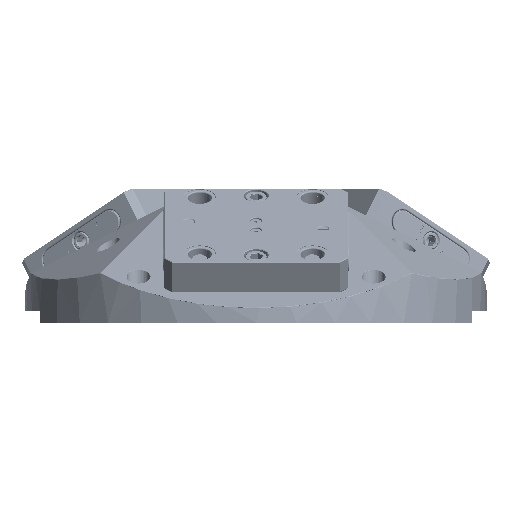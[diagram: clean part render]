
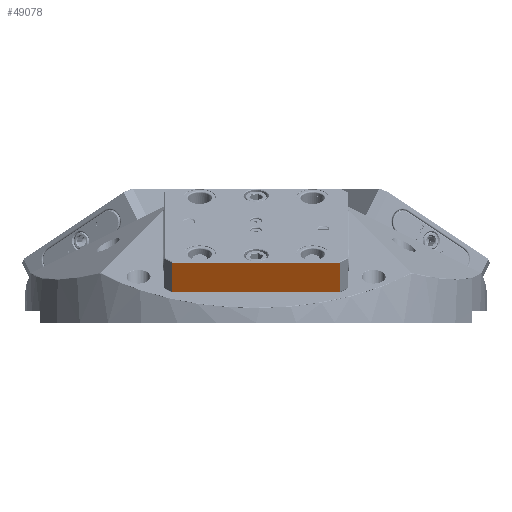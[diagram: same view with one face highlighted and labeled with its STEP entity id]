
A CAD part, top view. The second image highlights one B-rep face of the part: STEP entity #49078.
In plain terms, the highlighted planar face has unit normal (0, -0.5, 0.866) as drawn and (0, 0, 1) by its records, which use the part's own axes.
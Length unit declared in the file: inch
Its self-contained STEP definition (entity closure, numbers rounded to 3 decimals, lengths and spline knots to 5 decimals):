
#3766 = DIRECTION ( 'NONE',  ( 1., 0., 0. ) ) ;
#4210 = EDGE_CURVE ( 'NONE', #11024, #30637, #40959, .T. ) ;
#5087 = DIRECTION ( 'NONE',  ( -1., 0., 0. ) ) ;
#5594 = EDGE_CURVE ( 'NONE', #10523, #5691, #40289, .T. ) ;
#5691 = VERTEX_POINT ( 'NONE', #50398 ) ;
#8249 = ORIENTED_EDGE ( 'NONE', *, *, #39072, .T. ) ;
#10523 = VERTEX_POINT ( 'NONE', #50060 ) ;
#11024 = VERTEX_POINT ( 'NONE', #21183 ) ;
#11667 = DIRECTION ( 'NONE',  ( 0., 0., -1. ) ) ;
#14332 = EDGE_CURVE ( 'NONE', #5691, #11024, #48524, .T. ) ;
#15856 = CARTESIAN_POINT ( 'NONE',  ( -2.82087, 1.1811, 2.48031 ) ) ;
#16609 = ORIENTED_EDGE ( 'NONE', *, *, #5594, .T. ) ;
#17506 = VECTOR ( 'NONE', #3766, 39.37008 ) ;
#20911 = AXIS2_PLACEMENT_3D ( 'NONE', #36255, #11667, #40634 ) ;
#21183 = CARTESIAN_POINT ( 'NONE',  ( -2.82087, 1.1611, 2.48031 ) ) ;
#22446 = EDGE_LOOP ( 'NONE', ( #27072, #8249, #16609, #52623 ) ) ;
#25652 = CARTESIAN_POINT ( 'NONE',  ( -2.82087, 1.1611, 2.48031 ) ) ;
#27072 = ORIENTED_EDGE ( 'NONE', *, *, #4210, .T. ) ;
#27934 = VECTOR ( 'NONE', #32688, 39.37008 ) ;
#28476 = CARTESIAN_POINT ( 'NONE',  ( -3.07087, 0.02, 2.48031 ) ) ;
#28984 = FACE_OUTER_BOUND ( 'NONE', #22446, .T. ) ;
#30637 = VERTEX_POINT ( 'NONE', #47906 ) ;
#32688 = DIRECTION ( 'NONE',  ( 0., 1., 0. ) ) ;
#32868 = CARTESIAN_POINT ( 'NONE',  ( 2.82087, 1.1811, 2.48031 ) ) ;
#36255 = CARTESIAN_POINT ( 'NONE',  ( -3.07087, 1.1811, 2.48031 ) ) ;
#37477 = VECTOR ( 'NONE', #5087, 39.37008 ) ;
#38190 = LINE ( 'NONE', #28476, #17506 ) ;
#39072 = EDGE_CURVE ( 'NONE', #30637, #10523, #38190, .T. ) ;
#40289 = LINE ( 'NONE', #32868, #27934 ) ;
#40634 = DIRECTION ( 'NONE',  ( -1., 0., 0. ) ) ;
#40637 = DIRECTION ( 'NONE',  ( 0., -1., 0. ) ) ;
#40959 = LINE ( 'NONE', #15856, #51922 ) ;
#44625 = PLANE ( 'NONE',  #20911 ) ;
#47906 = CARTESIAN_POINT ( 'NONE',  ( -2.82087, 0.02, 2.48031 ) ) ;
#48524 = LINE ( 'NONE', #25652, #37477 ) ;
#49078 = ADVANCED_FACE ( 'NONE', ( #28984 ), #44625, .F. ) ;
#50060 = CARTESIAN_POINT ( 'NONE',  ( 2.82087, 0.02, 2.48031 ) ) ;
#50398 = CARTESIAN_POINT ( 'NONE',  ( 2.82087, 1.1611, 2.48031 ) ) ;
#51922 = VECTOR ( 'NONE', #40637, 39.37008 ) ;
#52623 = ORIENTED_EDGE ( 'NONE', *, *, #14332, .T. ) ;
